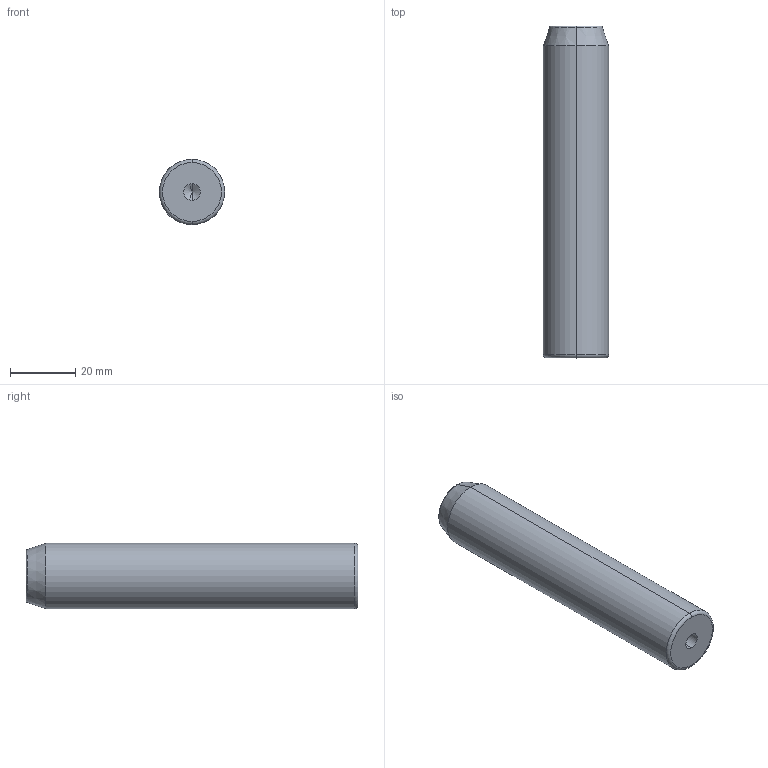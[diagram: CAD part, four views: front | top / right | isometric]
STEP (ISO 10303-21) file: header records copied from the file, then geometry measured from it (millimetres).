
FILE_DESCRIPTION (( 'STEP AP203' ), '1' );
FILE_NAME ('(STEP)M-PXD-4.STEP', '2020-04-06T02:45:57', ( '' ), ( '' ), 'SwSTEP 2.0', 'SolidWorks 2019', '' );
FILE_SCHEMA (( 'CONFIG_CONTROL_DESIGN' ));
Length unit declared in the file: millimetre
Products named in the file (1): (STEP)M-PXD-4
Bounding box: 20 x 101.6 x 20 mm (x, y, z)
Volume: 31237.3 mm3; surface area: 7129.5 mm2
Topology: 1 solids, 1 shells, 18 faces, 38 edges, 20 vertices
Faces by surface type: cone 6, cylinder 6, torus 4, plane 2
Entity records: 533 total; most frequent: DIRECTION 94, CARTESIAN_POINT 73, ORIENTED_EDGE 68, AXIS2_PLACEMENT_3D 41, EDGE_CURVE 34, CIRCLE 22, EDGE_LOOP 20, VERTEX_POINT 20
